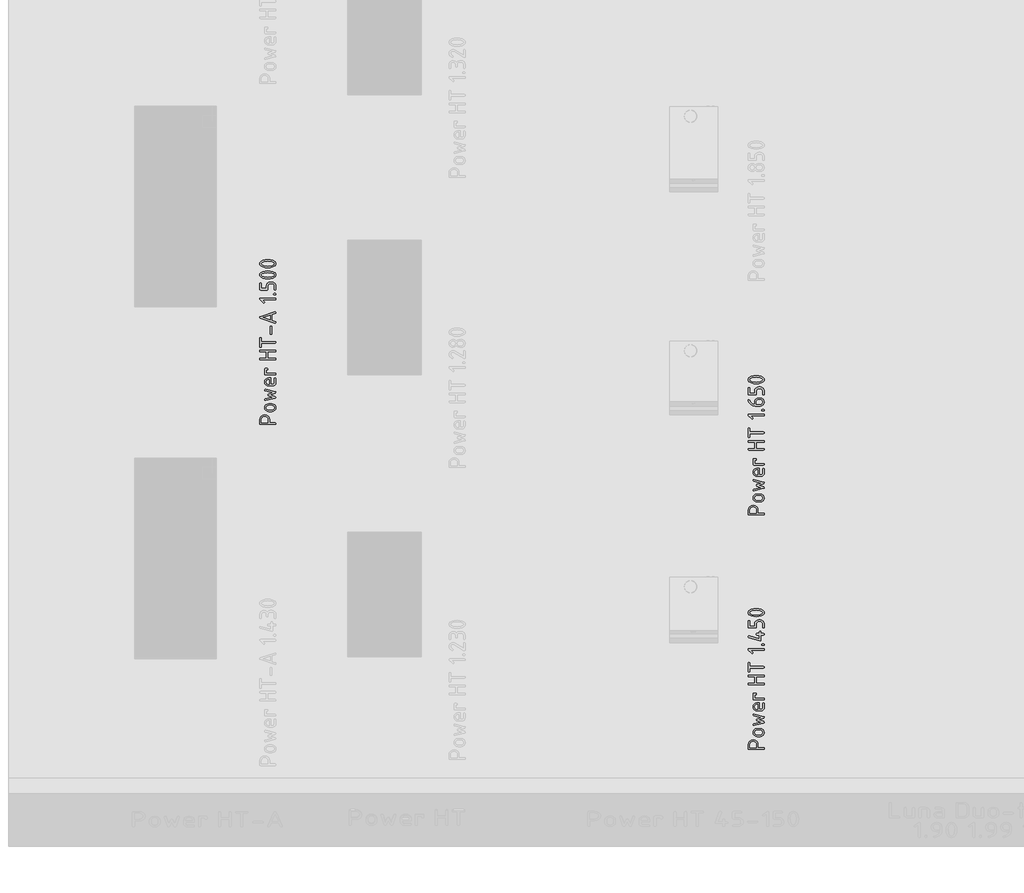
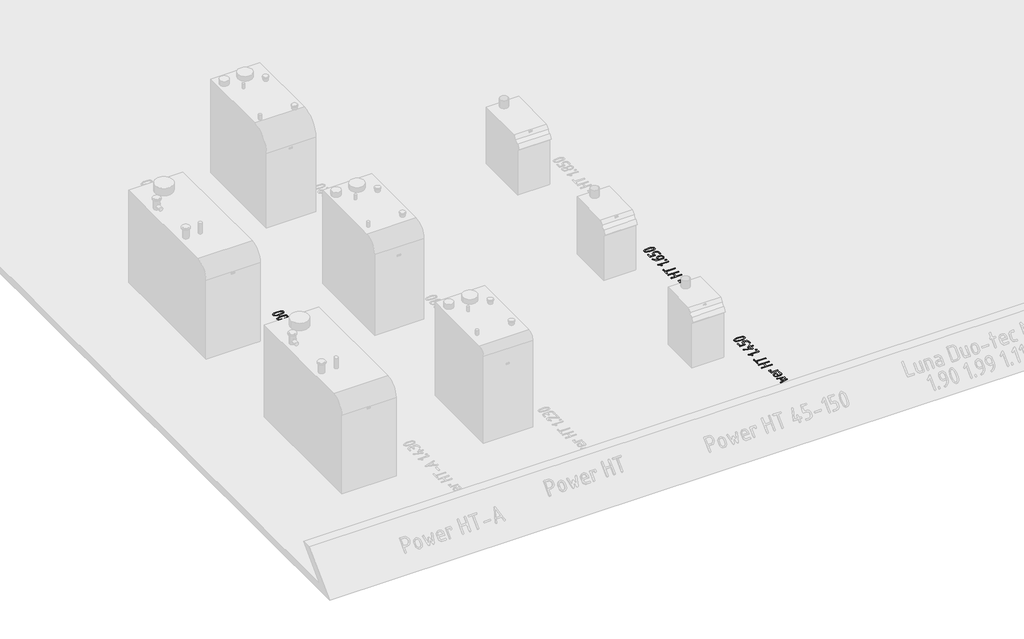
# One storey, part 15 of 37: 3 proxies.
"""IFC4 building model written with IfcOpenShell, lengths in millimetres."""

from ifc_helpers import new_model, si_unit, frame, origin, place, context, project, spatial, polyline, outline, extrude, element, save

model = new_model("IFC4")

# Units and contexts
model_context = context("Model", 3, world=origin())
ifc_project = project(units=[si_unit("LENGTHUNIT", "METRE", prefix="MILLI")], contexts=[model_context])

# Site, building, storey
site = spatial("IfcSite", under=ifc_project)
building = spatial("IfcBuilding", under=site)
storey = spatial("IfcBuildingStorey", under=building, Name="01_Стартовый вид_Площадка", Elevation=0.0)

# Proxies
placement = place(None, origin())
element("IfcBuildingElementProxy", 1, Name="150 мм", ObjectType="150 мм", at=placement, inside=storey, context=model_context, shape_type="SweptSolid", body=[
    extrude(outline(polyline([(4705.0274469, -4367.0979385), (4705.0274469, -4329.8230938), (4708.3833815, -4312.5689956), (4718.4511852, -4298.1214975), (4733.3131812, -4288.338349), (4751.0516925, -4285.0772995), (4769.5892359, -4288.1685547), (4784.2914255, -4297.4423203), (4793.87981, -4311.6600967), (4797.0759381, -4329.5833842), (4797.0759381, -4359.2274729), (4848.5336016, -4359.2274729), (4854.0469227, -4361.1451498), (4855.8846964, -4366.8981805), (4853.9969832, -4372.6512112), (4848.3338436, -4374.5688881), (4712.5782997, -4374.5688881), (4706.9151601, -4372.7011507), (4705.0274469, -4367.0979385)]), holes=[polyline([(4720.3688621, -4359.2274729), (4781.7345229, -4359.2274729), (4781.7345229, -4329.8230938), (4779.5122151, -4318.4318932), (4772.8452915, -4308.9483817), (4762.952276, -4302.5511314), (4751.0516925, -4300.4187147), (4739.1511091, -4302.5511314), (4729.2580936, -4308.9483817), (4722.59117, -4318.4318932), (4720.3688621, -4329.8230938), (4720.3688621, -4359.2274729)])]), frame((0.0, 0.0, -10.0), z_axis=(0.0, 0.0, 1.0), x_axis=(1.0, 0.0, 0.0)), (0.0, 0.0, 1.0), 10.0),
    extrude(outline(polyline([(4818.4500452, -4254.3944691), (4788.4863437, -4254.3944691), (4774.093779, -4251.6827541), (4761.9984315, -4243.5476091), (4753.7883773, -4231.5671224), (4751.0516925, -4217.3193823), (4753.7584136, -4202.9218237), (4761.8785767, -4190.9713008), (4773.9439605, -4182.9260469), (4788.4863437, -4180.2442956), (4818.4500452, -4180.2442956), (4832.8426099, -4182.9560106), (4844.9379574, -4191.0911556), (4853.1480116, -4203.0716423), (4855.8846964, -4217.3193823), (4853.1480116, -4231.5671224), (4844.9379574, -4243.5476091), (4832.8426099, -4251.6827541), (4818.4500452, -4254.3944691)]), holes=[polyline([(4818.0105776, -4195.5857108), (4788.0069245, -4195.5857108), (4779.3773784, -4197.1787809), (4772.1061868, -4201.9579913), (4767.1621761, -4208.9844794), (4765.5141725, -4217.3193823), (4767.1621761, -4225.6542853), (4772.1061868, -4232.6807733), (4779.3773784, -4237.4599837), (4788.0069245, -4239.0530539), (4818.0105776, -4239.0530539), (4826.7200269, -4237.4749656), (4833.9912184, -4232.7407007), (4838.9052655, -4225.7291946), (4840.5432812, -4217.3193823), (4838.8952776, -4208.9844794), (4833.9512668, -4201.9579913), (4826.6700874, -4197.1787809), (4818.0105776, -4195.5857108)])]), frame((0.0, 0.0, -10.0), z_axis=(0.0, 0.0, 1.0), x_axis=(1.0, 0.0, 0.0)), (0.0, 0.0, 1.0), 10.0),
    extrude(outline(polyline([(4855.8846964, -4074.8919209), (4850.4512785, -4082.1631125), (4809.7006444, -4097.3846729), (4850.2115689, -4112.6461849), (4855.8846964, -4119.9173765), (4854.1268259, -4124.7714961), (4848.8532144, -4127.5081809), (4760.3604158, -4149.68132), (4758.2030293, -4149.9210296), (4752.8395267, -4148.0433043), (4751.0516925, -4142.4101284), (4752.4699744, -4137.635912), (4756.72482, -4135.1389369), (4823.0844311, -4118.5190704), (4785.8095863, -4104.5759613), (4780.9354909, -4097.3846729), (4785.8095863, -4090.3531909), (4823.2042859, -4076.3701302), (4756.72482, -4059.6703605), (4752.4699744, -4057.113458), (4751.0516925, -4052.399169), (4753.1491516, -4047.1655091), (4758.2030293, -4044.8882678), (4760.3604158, -4045.1279774), (4849.292682, -4067.3810197), (4854.2366928, -4070.0577771), (4855.8846964, -4074.8919209)])), frame((0.0, 0.0, -10.0), z_axis=(0.0, 0.0, 1.0), x_axis=(1.0, 0.0, 0.0)), (0.0, 0.0, 1.0), 10.0),
    extrude(outline(polyline([(4809.8604508, -3998.7042158), (4825.201866, -3998.7042158), (4836.0087744, -3994.2695879), (4840.5432812, -3983.722365), (4840.5432812, -3946.2078106), (4842.4609581, -3940.5746348), (4848.2139888, -3938.6969095), (4853.9670195, -3940.5746348), (4855.8846964, -3946.2078106), (4855.8846964, -3983.722365), (4853.717322, -3995.3782449), (4847.2151987, -4005.1763753), (4837.5568989, -4011.8283171), (4825.9209948, -4014.045631), (4788.4863437, -4014.045631), (4774.093779, -4011.2640007), (4761.9984315, -4002.9191098), (4753.7883773, -3990.6789377), (4751.0516925, -3976.2114638), (4753.7084741, -3961.634123), (4761.6788187, -3949.5437694), (4773.5244687, -3941.4086244), (4787.8071664, -3938.6969095), (4809.8604508, -3938.6969095), (4809.8604508, -3998.7042158)]), holes=[polyline([(4764.5153824, -3976.2114638), (4766.163386, -3984.8410099), (4771.1073968, -3992.1122014), (4778.3785884, -3997.0562122), (4787.0081344, -3998.7042158), (4794.5190356, -3998.7042158), (4794.5190356, -3953.7187118), (4787.0081344, -3953.7187118), (4778.3785884, -3955.3667154), (4771.1073968, -3960.3107262), (4766.163386, -3967.5819178), (4764.5153824, -3976.2114638)])]), frame((0.0, 0.0, -10.0), z_axis=(0.0, 0.0, 1.0), x_axis=(1.0, 0.0, 0.0)), (0.0, 0.0, 1.0), 10.0),
    extrude(outline(polyline([(4758.5226421, -3909.2126271), (4752.9194299, -3907.2949502), (4751.0516925, -3901.5419195), (4751.0516925, -3856.3566576), (4752.9693694, -3850.7534454), (4758.7224001, -3848.885708), (4773.9040089, -3848.885708), (4779.5371848, -3850.7534454), (4781.4149101, -3856.3566576), (4779.5371848, -3861.9898335), (4773.9040089, -3863.8675588), (4766.3931077, -3863.8675588), (4766.3931077, -3893.8712119), (4848.4137468, -3893.8712119), (4854.016959, -3895.7888888), (4855.8846964, -3901.5419195), (4854.016959, -3907.2949502), (4848.4137468, -3909.2126271), (4758.5226421, -3909.2126271)])), frame((0.0, 0.0, -10.0), z_axis=(0.0, 0.0, 1.0), x_axis=(1.0, 0.0, 0.0)), (0.0, 0.0, 1.0), 10.0),
    extrude(outline(polyline([(4848.3338436, -3768.5829878), (4712.5782997, -3768.5829878), (4706.9151601, -3766.6653109), (4705.0274469, -3760.9122802), (4706.9451238, -3755.1592495), (4712.6981545, -3753.2415726), (4766.3931077, -3753.2415726), (4766.3931077, -3694.4328144), (4712.6981545, -3694.4328144), (4706.9451238, -3692.5151375), (4705.0274469, -3686.7621068), (4706.9151601, -3681.0090761), (4712.5782997, -3679.0913992), (4848.3338436, -3679.0913992), (4853.9969832, -3681.0090761), (4855.8846964, -3686.7621068), (4854.0269469, -3692.5151375), (4848.4536984, -3694.4328144), (4781.7345229, -3694.4328144), (4781.7345229, -3753.2415726), (4848.4536984, -3753.2415726), (4854.0269469, -3755.1592495), (4855.8846964, -3760.9122802), (4853.9969832, -3766.6653109), (4848.3338436, -3768.5829878)])), frame((0.0, 0.0, -10.0), z_axis=(0.0, 0.0, 1.0), x_axis=(1.0, 0.0, 0.0)), (0.0, 0.0, 1.0), 10.0),
    extrude(outline(polyline([(4712.6981545, -3650.1264877), (4706.9451238, -3648.2487624), (4705.0274469, -3642.6155865), (4705.0274469, -3567.2668649), (4706.9451238, -3561.6636528), (4712.6981545, -3559.7959154), (4718.4511852, -3561.6636528), (4720.3688621, -3567.2668649), (4720.3688621, -3597.2705181), (4848.3737952, -3597.2705181), (4854.0069711, -3599.188195), (4855.8846964, -3604.9412257), (4854.0069711, -3610.6942564), (4848.3737952, -3612.6119333), (4720.3688621, -3612.6119333), (4720.3688621, -3642.6155865), (4718.4511852, -3648.2487624), (4712.6981545, -3650.1264877)])), frame((0.0, 0.0, -10.0), z_axis=(0.0, 0.0, 1.0), x_axis=(1.0, 0.0, 0.0)), (0.0, 0.0, 1.0), 10.0),
    extrude(outline(polyline([(4730.7562787, -3446.4132687), (4748.0553224, -3463.6723608), (4750.2127089, -3468.9060206), (4748.3349836, -3474.5391965), (4742.7018077, -3476.4169218), (4737.4681478, -3474.2195837), (4707.9838655, -3444.8951078), (4705.0274469, -3438.7425611), (4706.9151601, -3432.9895304), (4712.5782997, -3431.0718535), (4848.3338436, -3431.0718535), (4853.9969832, -3432.9895304), (4855.8846964, -3438.7425611), (4853.9969832, -3444.4955918), (4848.3338436, -3446.4132687), (4730.7562787, -3446.4132687)])), frame((0.0, 0.0, -10.0), z_axis=(0.0, 0.0, 1.0), x_axis=(1.0, 0.0, 0.0)), (0.0, 0.0, 1.0), 10.0),
    extrude(outline(polyline([(4840.5432812, -3400.3890231), (4834.7902505, -3398.4713462), (4832.8725736, -3392.7183155), (4834.7902505, -3386.9652848), (4840.5432812, -3385.0476079), (4848.2139888, -3385.0476079), (4853.9670195, -3386.9652848), (4855.8846964, -3392.7183155), (4853.9670195, -3398.4713462), (4848.2139888, -3400.3890231), (4840.5432812, -3400.3890231)])), frame((0.0, 0.0, -10.0), z_axis=(0.0, 0.0, 1.0), x_axis=(1.0, 0.0, 0.0)), (0.0, 0.0, 1.0), 10.0),
    extrude(outline(polyline([(4817.6909648, -3355.7630836), (4815.6534331, -3355.5233739), (4710.5008164, -3325.5197208), (4706.3957893, -3322.9028908), (4705.0274469, -3318.2485292), (4706.8951843, -3312.6153533), (4712.4983965, -3310.737628), (4714.655783, -3311.0971924), (4809.8604508, -3338.344185), (4809.8604508, -3303.2267268), (4787.3277472, -3303.2267268), (4781.724535, -3301.3090499), (4779.8567976, -3295.5560192), (4781.724535, -3289.8029885), (4787.3277472, -3287.8853116), (4809.8604508, -3287.8853116), (4809.8604508, -3272.8635092), (4811.7781277, -3267.2602971), (4817.5311584, -3265.3925597), (4823.2841891, -3267.2602971), (4825.201866, -3272.8635092), (4825.201866, -3287.8853116), (4848.2139888, -3287.8853116), (4853.9670195, -3289.8029885), (4855.8846964, -3295.5560192), (4853.9670195, -3301.3090499), (4848.2139888, -3303.2267268), (4825.201866, -3303.2267268), (4825.201866, -3348.2521824), (4823.3241407, -3353.8853583), (4817.6909648, -3355.7630836)])), frame((0.0, 0.0, -10.0), z_axis=(0.0, 0.0, 1.0), x_axis=(1.0, 0.0, 0.0)), (0.0, 0.0, 1.0), 10.0),
    extrude(outline(polyline([(4774.0638153, -3234.1903584), (4712.6981545, -3234.1903584), (4706.9451238, -3232.3525847), (4705.0274469, -3226.8392637), (4705.0274469, -3175.3816002), (4706.9451238, -3169.7484243), (4712.6981545, -3167.870699), (4718.4511852, -3169.7484243), (4720.3688621, -3175.3816002), (4720.3688621, -3218.8489432), (4766.3931077, -3218.8489432), (4766.3931077, -3196.7956589), (4769.1347864, -3182.6627797), (4777.3598225, -3170.7871659), (4789.4202124, -3162.7269302), (4803.6679525, -3160.040185), (4818.6098516, -3160.040185), (4832.932501, -3162.7668818), (4844.977909, -3170.9469723), (4853.1579995, -3182.9424409), (4855.8846964, -3197.1152717), (4855.8846964, -3226.7593604), (4853.9670195, -3232.3326089), (4848.2139888, -3234.1903584), (4842.4609581, -3232.3525847), (4840.5432812, -3226.8392637), (4840.5432812, -3197.4348845), (4838.9402232, -3188.9102114), (4834.1310491, -3181.7938323), (4827.0146699, -3176.9846582), (4818.4899968, -3175.3816002), (4803.7878073, -3175.3816002), (4795.3130737, -3176.9946461), (4788.1867067, -3181.8337839), (4783.3475689, -3188.9601509), (4781.7345229, -3197.4348845), (4781.7345229, -3226.8392637), (4779.816846, -3232.3525847), (4774.0638153, -3234.1903584)])), frame((0.0, 0.0, -10.0), z_axis=(0.0, 0.0, 1.0), x_axis=(1.0, 0.0, 0.0)), (0.0, 0.0, 1.0), 10.0),
    extrude(outline(polyline([(4780.4560717, -3055.2071811), (4805.5956173, -3056.8352089), (4827.0795913, -3061.7192923), (4848.6834201, -3074.1342526), (4854.0843773, -3082.4916284), (4855.8846964, -3092.2822679), (4854.0918682, -3102.0729073), (4848.7133838, -3110.4302831), (4827.1994461, -3122.8452434), (4805.6855084, -3127.7293268), (4780.4560717, -3129.3573546), (4755.226635, -3127.7293268), (4733.7126972, -3122.8452434), (4712.1987595, -3110.4302831), (4706.8202751, -3102.0729073), (4705.0274469, -3092.2822679), (4706.827766, -3082.4916284), (4712.2287232, -3074.1342526), (4733.832552, -3061.7192923), (4755.3165261, -3056.8352089), (4780.4560717, -3055.2071811)]), holes=[polyline([(4780.4560717, -3070.5485963), (4745.2986618, -3074.3839501), (4726.6013121, -3081.7749965), (4720.3688621, -3092.2822679), (4726.6312758, -3102.6996481), (4745.4185166, -3110.0607308), (4780.4560717, -3114.0159394), (4815.6134815, -3110.1805856), (4834.3108313, -3102.7895392), (4840.5432812, -3092.2822679), (4834.3108313, -3081.7749965), (4815.6134815, -3074.3839501), (4780.4560717, -3070.5485963)])]), frame((0.0, 0.0, -10.0), z_axis=(0.0, 0.0, 1.0), x_axis=(1.0, 0.0, 0.0)), (0.0, 0.0, 1.0), 10.0),
])
element("IfcBuildingElementProxy", 2, Name="150 мм", ObjectType="150 мм", at=placement, inside=storey, context=model_context, shape_type="SweptSolid", body=[
    extrude(outline(polyline([(4705.0274469, -2167.0979385), (4705.0274469, -2129.8230938), (4708.3833815, -2112.5689956), (4718.4511852, -2098.1214975), (4733.3131812, -2088.338349), (4751.0516925, -2085.0772995), (4769.5892359, -2088.1685547), (4784.2914255, -2097.4423203), (4793.87981, -2111.6600967), (4797.0759381, -2129.5833842), (4797.0759381, -2159.2274729), (4848.5336016, -2159.2274729), (4854.0469227, -2161.1451498), (4855.8846964, -2166.8981805), (4853.9969832, -2172.6512112), (4848.3338436, -2174.5688881), (4712.5782997, -2174.5688881), (4706.9151601, -2172.7011507), (4705.0274469, -2167.0979385)]), holes=[polyline([(4720.3688621, -2159.2274729), (4781.7345229, -2159.2274729), (4781.7345229, -2129.8230938), (4779.5122151, -2118.4318932), (4772.8452915, -2108.9483817), (4762.952276, -2102.5511314), (4751.0516925, -2100.4187147), (4739.1511091, -2102.5511314), (4729.2580936, -2108.9483817), (4722.59117, -2118.4318932), (4720.3688621, -2129.8230938), (4720.3688621, -2159.2274729)])]), frame((0.0, 0.0, -10.0), z_axis=(0.0, 0.0, 1.0), x_axis=(1.0, 0.0, 0.0)), (0.0, 0.0, 1.0), 10.0),
    extrude(outline(polyline([(4818.4500452, -2054.3944691), (4788.4863437, -2054.3944691), (4774.093779, -2051.6827541), (4761.9984315, -2043.5476091), (4753.7883773, -2031.5671224), (4751.0516925, -2017.3193823), (4753.7584136, -2002.9218237), (4761.8785767, -1990.9713008), (4773.9439605, -1982.9260469), (4788.4863437, -1980.2442956), (4818.4500452, -1980.2442956), (4832.8426099, -1982.9560106), (4844.9379574, -1991.0911556), (4853.1480116, -2003.0716423), (4855.8846964, -2017.3193823), (4853.1480116, -2031.5671224), (4844.9379574, -2043.5476091), (4832.8426099, -2051.6827541), (4818.4500452, -2054.3944691)]), holes=[polyline([(4818.0105776, -1995.5857108), (4788.0069245, -1995.5857108), (4779.3773784, -1997.1787809), (4772.1061868, -2001.9579913), (4767.1621761, -2008.9844794), (4765.5141725, -2017.3193823), (4767.1621761, -2025.6542853), (4772.1061868, -2032.6807733), (4779.3773784, -2037.4599837), (4788.0069245, -2039.0530539), (4818.0105776, -2039.0530539), (4826.7200269, -2037.4749656), (4833.9912184, -2032.7407007), (4838.9052655, -2025.7291946), (4840.5432812, -2017.3193823), (4838.8952776, -2008.9844794), (4833.9512668, -2001.9579913), (4826.6700874, -1997.1787809), (4818.0105776, -1995.5857108)])]), frame((0.0, 0.0, -10.0), z_axis=(0.0, 0.0, 1.0), x_axis=(1.0, 0.0, 0.0)), (0.0, 0.0, 1.0), 10.0),
    extrude(outline(polyline([(4855.8846964, -1874.8919209), (4850.4512785, -1882.1631125), (4809.7006444, -1897.3846729), (4850.2115689, -1912.6461849), (4855.8846964, -1919.9173765), (4854.1268259, -1924.7714961), (4848.8532144, -1927.5081809), (4760.3604158, -1949.68132), (4758.2030293, -1949.9210296), (4752.8395267, -1948.0433043), (4751.0516925, -1942.4101284), (4752.4699744, -1937.635912), (4756.72482, -1935.1389369), (4823.0844311, -1918.5190704), (4785.8095863, -1904.5759613), (4780.9354909, -1897.3846729), (4785.8095863, -1890.3531909), (4823.2042859, -1876.3701302), (4756.72482, -1859.6703605), (4752.4699744, -1857.113458), (4751.0516925, -1852.399169), (4753.1491516, -1847.1655091), (4758.2030293, -1844.8882678), (4760.3604158, -1845.1279774), (4849.292682, -1867.3810197), (4854.2366928, -1870.0577771), (4855.8846964, -1874.8919209)])), frame((0.0, 0.0, -10.0), z_axis=(0.0, 0.0, 1.0), x_axis=(1.0, 0.0, 0.0)), (0.0, 0.0, 1.0), 10.0),
    extrude(outline(polyline([(4809.8604508, -1798.7042158), (4825.201866, -1798.7042158), (4836.0087744, -1794.2695879), (4840.5432812, -1783.722365), (4840.5432812, -1746.2078106), (4842.4609581, -1740.5746348), (4848.2139888, -1738.6969095), (4853.9670195, -1740.5746348), (4855.8846964, -1746.2078106), (4855.8846964, -1783.722365), (4853.717322, -1795.3782449), (4847.2151987, -1805.1763753), (4837.5568989, -1811.8283171), (4825.9209948, -1814.045631), (4788.4863437, -1814.045631), (4774.093779, -1811.2640007), (4761.9984315, -1802.9191098), (4753.7883773, -1790.6789377), (4751.0516925, -1776.2114638), (4753.7084741, -1761.634123), (4761.6788187, -1749.5437694), (4773.5244687, -1741.4086244), (4787.8071664, -1738.6969095), (4809.8604508, -1738.6969095), (4809.8604508, -1798.7042158)]), holes=[polyline([(4764.5153824, -1776.2114638), (4766.163386, -1784.8410099), (4771.1073968, -1792.1122014), (4778.3785884, -1797.0562122), (4787.0081344, -1798.7042158), (4794.5190356, -1798.7042158), (4794.5190356, -1753.7187118), (4787.0081344, -1753.7187118), (4778.3785884, -1755.3667154), (4771.1073968, -1760.3107262), (4766.163386, -1767.5819178), (4764.5153824, -1776.2114638)])]), frame((0.0, 0.0, -10.0), z_axis=(0.0, 0.0, 1.0), x_axis=(1.0, 0.0, 0.0)), (0.0, 0.0, 1.0), 10.0),
    extrude(outline(polyline([(4758.5226421, -1709.2126271), (4752.9194299, -1707.2949502), (4751.0516925, -1701.5419195), (4751.0516925, -1656.3566576), (4752.9693694, -1650.7534454), (4758.7224001, -1648.885708), (4773.9040089, -1648.885708), (4779.5371848, -1650.7534454), (4781.4149101, -1656.3566576), (4779.5371848, -1661.9898335), (4773.9040089, -1663.8675588), (4766.3931077, -1663.8675588), (4766.3931077, -1693.8712119), (4848.4137468, -1693.8712119), (4854.016959, -1695.7888888), (4855.8846964, -1701.5419195), (4854.016959, -1707.2949502), (4848.4137468, -1709.2126271), (4758.5226421, -1709.2126271)])), frame((0.0, 0.0, -10.0), z_axis=(0.0, 0.0, 1.0), x_axis=(1.0, 0.0, 0.0)), (0.0, 0.0, 1.0), 10.0),
    extrude(outline(polyline([(4848.3338436, -1568.5829878), (4712.5782997, -1568.5829878), (4706.9151601, -1566.6653109), (4705.0274469, -1560.9122802), (4706.9451238, -1555.1592495), (4712.6981545, -1553.2415726), (4766.3931077, -1553.2415726), (4766.3931077, -1494.4328144), (4712.6981545, -1494.4328144), (4706.9451238, -1492.5151375), (4705.0274469, -1486.7621068), (4706.9151601, -1481.0090761), (4712.5782997, -1479.0913992), (4848.3338436, -1479.0913992), (4853.9969832, -1481.0090761), (4855.8846964, -1486.7621068), (4854.0269469, -1492.5151375), (4848.4536984, -1494.4328144), (4781.7345229, -1494.4328144), (4781.7345229, -1553.2415726), (4848.4536984, -1553.2415726), (4854.0269469, -1555.1592495), (4855.8846964, -1560.9122802), (4853.9969832, -1566.6653109), (4848.3338436, -1568.5829878)])), frame((0.0, 0.0, -10.0), z_axis=(0.0, 0.0, 1.0), x_axis=(1.0, 0.0, 0.0)), (0.0, 0.0, 1.0), 10.0),
    extrude(outline(polyline([(4712.6981545, -1450.1264877), (4706.9451238, -1448.2487624), (4705.0274469, -1442.6155865), (4705.0274469, -1367.2668649), (4706.9451238, -1361.6636528), (4712.6981545, -1359.7959154), (4718.4511852, -1361.6636528), (4720.3688621, -1367.2668649), (4720.3688621, -1397.2705181), (4848.3737952, -1397.2705181), (4854.0069711, -1399.188195), (4855.8846964, -1404.9412257), (4854.0069711, -1410.6942564), (4848.3737952, -1412.6119333), (4720.3688621, -1412.6119333), (4720.3688621, -1442.6155865), (4718.4511852, -1448.2487624), (4712.6981545, -1450.1264877)])), frame((0.0, 0.0, -10.0), z_axis=(0.0, 0.0, 1.0), x_axis=(1.0, 0.0, 0.0)), (0.0, 0.0, 1.0), 10.0),
    extrude(outline(polyline([(4730.7562787, -1246.4132687), (4748.0553224, -1263.6723608), (4750.2127089, -1268.9060206), (4748.3349836, -1274.5391965), (4742.7018077, -1276.4169218), (4737.4681478, -1274.2195837), (4707.9838655, -1244.8951078), (4705.0274469, -1238.7425611), (4706.9151601, -1232.9895304), (4712.5782997, -1231.0718535), (4848.3338436, -1231.0718535), (4853.9969832, -1232.9895304), (4855.8846964, -1238.7425611), (4853.9969832, -1244.4955918), (4848.3338436, -1246.4132687), (4730.7562787, -1246.4132687)])), frame((0.0, 0.0, -10.0), z_axis=(0.0, 0.0, 1.0), x_axis=(1.0, 0.0, 0.0)), (0.0, 0.0, 1.0), 10.0),
    extrude(outline(polyline([(4840.5432812, -1200.3890231), (4834.7902505, -1198.4713462), (4832.8725736, -1192.7183155), (4834.7902505, -1186.9652848), (4840.5432812, -1185.0476079), (4848.2139888, -1185.0476079), (4853.9670195, -1186.9652848), (4855.8846964, -1192.7183155), (4853.9670195, -1198.4713462), (4848.2139888, -1200.3890231), (4840.5432812, -1200.3890231)])), frame((0.0, 0.0, -10.0), z_axis=(0.0, 0.0, 1.0), x_axis=(1.0, 0.0, 0.0)), (0.0, 0.0, 1.0), 10.0),
    extrude(outline(polyline([(4705.0274469, -1102.907114), (4706.9451238, -1097.3937929), (4712.6981545, -1095.5560192), (4719.3301205, -1099.2315666), (4726.5813363, -1114.5430181), (4739.7853408, -1127.7969621), (4752.8295388, -1135.437706), (4766.3931077, -1139.0233623), (4766.3931077, -1117.3296424), (4769.1048227, -1102.8521806), (4777.2399677, -1090.9016576), (4789.2703939, -1082.8863674), (4803.6679525, -1080.214604), (4818.6098516, -1080.214604), (4833.0074102, -1082.926319), (4845.0378364, -1091.061464), (4853.1729814, -1103.0419507), (4855.8846964, -1117.2896908), (4853.1579995, -1131.6123401), (4844.977909, -1143.5778449), (4832.8825615, -1151.6680443), (4818.4100936, -1154.3647775), (4772.9052189, -1154.3647775), (4748.8743302, -1150.2197988), (4727.9996181, -1137.7848626), (4715.1951297, -1124.2612453), (4706.7453658, -1109.5790316), (4705.0274469, -1102.907114)]), holes=[polyline([(4781.7345229, -1139.0233623), (4818.4899968, -1139.0233623), (4827.0146699, -1137.445274), (4834.1310491, -1132.7110092), (4838.9402232, -1125.699503), (4840.5432812, -1117.2896908), (4838.9302353, -1108.8798785), (4834.0910975, -1101.8683724), (4826.9647304, -1097.1341075), (4818.4899968, -1095.5560192), (4803.7878073, -1095.5560192), (4795.2631342, -1097.1490894), (4788.1467551, -1101.9282998), (4783.337581, -1108.9547878), (4781.7345229, -1117.2896908), (4781.7345229, -1139.0233623)])]), frame((0.0, 0.0, -10.0), z_axis=(0.0, 0.0, 1.0), x_axis=(1.0, 0.0, 0.0)), (0.0, 0.0, 1.0), 10.0),
    extrude(outline(polyline([(4774.0638153, -1049.5317736), (4712.6981545, -1049.5317736), (4706.9451238, -1047.6939999), (4705.0274469, -1042.1806789), (4705.0274469, -990.7230154), (4706.9451238, -985.0898395), (4712.6981545, -983.2121142), (4718.4511852, -985.0898395), (4720.3688621, -990.7230154), (4720.3688621, -1034.1903584), (4766.3931077, -1034.1903584), (4766.3931077, -1012.1370741), (4769.1347864, -998.0041949), (4777.3598225, -986.1285811), (4789.4202124, -978.0683454), (4803.6679525, -975.3816002), (4818.6098516, -975.3816002), (4832.932501, -978.108297), (4844.977909, -986.2883875), (4853.1579995, -998.2838561), (4855.8846964, -1012.4566869), (4855.8846964, -1042.1007756), (4853.9670195, -1047.6740241), (4848.2139888, -1049.5317736), (4842.4609581, -1047.6939999), (4840.5432812, -1042.1806789), (4840.5432812, -1012.7762997), (4838.9402232, -1004.2516266), (4834.1310491, -997.1352475), (4827.0146699, -992.3260734), (4818.4899968, -990.7230154), (4803.7878073, -990.7230154), (4795.3130737, -992.3360613), (4788.1867067, -997.1751991), (4783.3475689, -1004.3015661), (4781.7345229, -1012.7762997), (4781.7345229, -1042.1806789), (4779.816846, -1047.6939999), (4774.0638153, -1049.5317736)])), frame((0.0, 0.0, -10.0), z_axis=(0.0, 0.0, 1.0), x_axis=(1.0, 0.0, 0.0)), (0.0, 0.0, 1.0), 10.0),
    extrude(outline(polyline([(4780.4560717, -870.5485963), (4805.5956173, -872.1766241), (4827.0795913, -877.0607075), (4848.6834201, -889.4756678), (4854.0843773, -897.8330436), (4855.8846964, -907.6236831), (4854.0918682, -917.4143225), (4848.7133838, -925.7716983), (4827.1994461, -938.1866586), (4805.6855084, -943.070742), (4780.4560717, -944.6987698), (4755.226635, -943.070742), (4733.7126972, -938.1866586), (4712.1987595, -925.7716983), (4706.8202751, -917.4143225), (4705.0274469, -907.6236831), (4706.827766, -897.8330436), (4712.2287232, -889.4756678), (4733.832552, -877.0607075), (4755.3165261, -872.1766241), (4780.4560717, -870.5485963)]), holes=[polyline([(4780.4560717, -885.8900115), (4745.2986618, -889.7253653), (4726.6013121, -897.1164117), (4720.3688621, -907.6236831), (4726.6312758, -918.0410633), (4745.4185166, -925.402146), (4780.4560717, -929.3573546), (4815.6134815, -925.5220008), (4834.3108313, -918.1309544), (4840.5432812, -907.6236831), (4834.3108313, -897.1164117), (4815.6134815, -889.7253653), (4780.4560717, -885.8900115)])]), frame((0.0, 0.0, -10.0), z_axis=(0.0, 0.0, 1.0), x_axis=(1.0, 0.0, 0.0)), (0.0, 0.0, 1.0), 10.0),
])
element("IfcBuildingElementProxy", 3, Name="150 мм", ObjectType="150 мм", at=placement, inside=storey, context=model_context, shape_type="SweptSolid", body=[
    extrude(outline(polyline([(124.0044159, -1319.4896419), (124.0044159, -1282.2147972), (127.3603504, -1264.960699), (137.4281542, -1250.5132009), (152.2901501, -1240.7300524), (170.0286615, -1237.4690028), (188.5662048, -1240.5602581), (203.2683944, -1249.8340237), (212.8567789, -1264.0518001), (216.052907, -1281.9750876), (216.052907, -1311.6191763), (267.5105705, -1311.6191763), (273.0238916, -1313.5368532), (274.8616653, -1319.2898839), (272.9739521, -1325.0429146), (267.3108125, -1326.9605915), (131.5552687, -1326.9605915), (125.8921291, -1325.0928541), (124.0044159, -1319.4896419)]), holes=[polyline([(139.3458311, -1311.6191763), (200.7114919, -1311.6191763), (200.7114919, -1282.2147972), (198.489184, -1270.8235966), (191.8222604, -1261.3400851), (181.9292449, -1254.9428348), (170.0286615, -1252.810418), (158.128078, -1254.9428348), (148.2350625, -1261.3400851), (141.5681389, -1270.8235966), (139.3458311, -1282.2147972), (139.3458311, -1311.6191763)])]), frame((0.0, 0.0, -10.0), z_axis=(0.0, 0.0, 1.0), x_axis=(1.0, 0.0, 0.0)), (0.0, 0.0, 1.0), 10.0),
    extrude(outline(polyline([(237.4270142, -1206.7861724), (207.4633126, -1206.7861724), (193.070748, -1204.0744575), (180.9754004, -1195.9393125), (172.7653462, -1183.9588258), (170.0286615, -1169.7110857), (172.7353825, -1155.3135271), (180.8555456, -1143.3630042), (192.9209294, -1135.3177503), (207.4633126, -1132.635999), (237.4270142, -1132.635999), (251.8195788, -1135.347714), (263.9149263, -1143.482859), (272.1249806, -1155.4633456), (274.8616653, -1169.7110857), (272.1249806, -1183.9588258), (263.9149263, -1195.9393125), (251.8195788, -1204.0744575), (237.4270142, -1206.7861724)]), holes=[polyline([(236.9875465, -1147.9774142), (206.9838934, -1147.9774142), (198.3543473, -1149.5704843), (191.0831558, -1154.3496947), (186.139145, -1161.3761827), (184.4911414, -1169.7110857), (186.139145, -1178.0459887), (191.0831558, -1185.0724767), (198.3543473, -1189.8516871), (206.9838934, -1191.4447573), (236.9875465, -1191.4447573), (245.6969958, -1189.866669), (252.9681874, -1185.1324041), (257.8822344, -1178.120898), (259.5202501, -1169.7110857), (257.8722465, -1161.3761827), (252.9282358, -1154.3496947), (245.6470563, -1149.5704843), (236.9875465, -1147.9774142)])]), frame((0.0, 0.0, -10.0), z_axis=(0.0, 0.0, 1.0), x_axis=(1.0, 0.0, 0.0)), (0.0, 0.0, 1.0), 10.0),
    extrude(outline(polyline([(274.8616653, -1027.2836243), (269.4282474, -1034.5548159), (228.6776133, -1049.7763763), (269.1885378, -1065.0378883), (274.8616653, -1072.3090799), (273.1037948, -1077.1631995), (267.8301833, -1079.8998843), (179.3373847, -1102.0730234), (177.1799982, -1102.312733), (171.8164956, -1100.4350077), (170.0286615, -1094.8018318), (171.4469433, -1090.0276154), (175.701789, -1087.5306402), (242.0614, -1070.9107738), (204.7865553, -1056.9676647), (199.9124598, -1049.7763763), (204.7865553, -1042.7448943), (242.1812548, -1028.7618336), (175.701789, -1012.0620639), (171.4469433, -1009.5051614), (170.0286615, -1004.7908723), (172.1261206, -999.5572125), (177.1799982, -997.2799712), (179.3373847, -997.5196808), (268.269651, -1019.7727231), (273.2136617, -1022.4494805), (274.8616653, -1027.2836243)])), frame((0.0, 0.0, -10.0), z_axis=(0.0, 0.0, 1.0), x_axis=(1.0, 0.0, 0.0)), (0.0, 0.0, 1.0), 10.0),
    extrude(outline(polyline([(228.8374197, -951.0959192), (244.1788349, -951.0959192), (254.9857433, -946.6612913), (259.5202501, -936.1140684), (259.5202501, -898.599514), (261.437927, -892.9663381), (267.1909577, -891.0886128), (272.9439884, -892.9663381), (274.8616653, -898.599514), (274.8616653, -936.1140684), (272.6942909, -947.7699483), (266.1921677, -957.5680787), (256.5338679, -964.2200204), (244.8979637, -966.4373344), (207.4633126, -966.4373344), (193.070748, -963.6557041), (180.9754004, -955.3108132), (172.7653462, -943.0706411), (170.0286615, -928.6031672), (172.685443, -914.0258264), (180.6557876, -901.9354728), (192.5014376, -893.8003278), (206.7841354, -891.0886128), (228.8374197, -891.0886128), (228.8374197, -951.0959192)]), holes=[polyline([(183.4923514, -928.6031672), (185.1403549, -937.2327132), (190.0843657, -944.5039048), (197.3555573, -949.4479156), (205.9851033, -951.0959192), (213.4960045, -951.0959192), (213.4960045, -906.1104152), (205.9851033, -906.1104152), (197.3555573, -907.7584188), (190.0843657, -912.7024296), (185.1403549, -919.9736211), (183.4923514, -928.6031672)])]), frame((0.0, 0.0, -10.0), z_axis=(0.0, 0.0, 1.0), x_axis=(1.0, 0.0, 0.0)), (0.0, 0.0, 1.0), 10.0),
    extrude(outline(polyline([(177.499611, -861.6043305), (171.8963989, -859.6866536), (170.0286615, -853.9336229), (170.0286615, -808.748361), (171.9463384, -803.1451488), (177.6993691, -801.2774114), (192.8809778, -801.2774114), (198.5141537, -803.1451488), (200.391879, -808.748361), (198.5141537, -814.3815368), (192.8809778, -816.2592621), (185.3700767, -816.2592621), (185.3700767, -846.2629153), (267.3907157, -846.2629153), (272.9939279, -848.1805922), (274.8616653, -853.9336229), (272.9939279, -859.6866536), (267.3907157, -861.6043305), (177.499611, -861.6043305)])), frame((0.0, 0.0, -10.0), z_axis=(0.0, 0.0, 1.0), x_axis=(1.0, 0.0, 0.0)), (0.0, 0.0, 1.0), 10.0),
    extrude(outline(polyline([(267.3108125, -720.9746912), (131.5552687, -720.9746912), (125.8921291, -719.0570143), (124.0044159, -713.3039836), (125.9220928, -707.5509529), (131.6751235, -705.633276), (185.3700767, -705.633276), (185.3700767, -646.8245177), (131.6751235, -646.8245177), (125.9220928, -644.9068408), (124.0044159, -639.1538101), (125.8921291, -633.4007794), (131.5552687, -631.4831025), (267.3108125, -631.4831025), (272.9739521, -633.4007794), (274.8616653, -639.1538101), (273.0039158, -644.9068408), (267.4306673, -646.8245177), (200.7114919, -646.8245177), (200.7114919, -705.633276), (267.4306673, -705.633276), (273.0039158, -707.5509529), (274.8616653, -713.3039836), (272.9739521, -719.0570143), (267.3108125, -720.9746912)])), frame((0.0, 0.0, -10.0), z_axis=(0.0, 0.0, 1.0), x_axis=(1.0, 0.0, 0.0)), (0.0, 0.0, 1.0), 10.0),
    extrude(outline(polyline([(131.6751235, -602.518191), (125.9220928, -600.6404657), (124.0044159, -595.0072898), (124.0044159, -519.6585683), (125.9220928, -514.0553561), (131.6751235, -512.1876187), (137.4281542, -514.0553561), (139.3458311, -519.6585683), (139.3458311, -549.6622215), (267.3507641, -549.6622215), (272.98394, -551.5798984), (274.8616653, -557.3329291), (272.98394, -563.0859598), (267.3507641, -565.0036367), (139.3458311, -565.0036367), (139.3458311, -595.0072898), (137.4281542, -600.6404657), (131.6751235, -602.518191)])), frame((0.0, 0.0, -10.0), z_axis=(0.0, 0.0, 1.0), x_axis=(1.0, 0.0, 0.0)), (0.0, 0.0, 1.0), 10.0),
    extrude(outline(polyline([(236.5081273, -413.46721), (236.5081273, -473.4745163), (234.5904504, -479.1076922), (228.8374197, -480.9854175), (223.084389, -479.1076922), (221.1667121, -473.4745163), (221.1667121, -413.46721), (223.084389, -407.8340341), (228.8374197, -405.9563088), (234.5904504, -407.8340341), (236.5081273, -413.46721)])), frame((0.0, 0.0, -10.0), z_axis=(0.0, 0.0, 1.0), x_axis=(1.0, 0.0, 0.0)), (0.0, 0.0, 1.0), 10.0),
    extrude(outline(polyline([(267.3108125, -271.1196518), (272.9739521, -272.9973771), (274.8616653, -278.630553), (273.5532503, -283.1550719), (269.6280054, -285.7818898), (236.5081273, -296.5688223), (236.5081273, -350.6632915), (269.6280054, -361.4901757), (273.5532503, -364.1169935), (274.8616653, -368.6415125), (272.9739521, -374.2746884), (267.3108125, -376.1524137), (264.9137164, -375.7928492), (130.0770594, -331.1269581), (125.5225767, -328.230467), (124.0044159, -323.6160569), (125.4626493, -319.0615743), (129.8373498, -316.2649622), (264.9137164, -271.4792162), (267.3108125, -271.1196518)]), holes=[polyline([(155.0068591, -323.6160569), (221.1667121, -345.6693413), (221.1667121, -301.6027242), (155.0068591, -323.6160569)])]), frame((0.0, 0.0, -10.0), z_axis=(0.0, 0.0, 1.0), x_axis=(1.0, 0.0, 0.0)), (0.0, 0.0, 1.0), 10.0),
    extrude(outline(polyline([(149.7332476, -158.456134), (167.0322913, -175.715226), (169.1896778, -180.9488859), (167.3119525, -186.5820618), (161.6787766, -188.4597871), (156.4451167, -186.262449), (126.9608344, -156.9379731), (124.0044159, -150.7854264), (125.8921291, -145.0323957), (131.5552687, -143.1147188), (267.3108125, -143.1147188), (272.9739521, -145.0323957), (274.8616653, -150.7854264), (272.9739521, -156.5384571), (267.3108125, -158.456134), (149.7332476, -158.456134)])), frame((0.0, 0.0, -10.0), z_axis=(0.0, 0.0, 1.0), x_axis=(1.0, 0.0, 0.0)), (0.0, 0.0, 1.0), 10.0),
    extrude(outline(polyline([(259.5202501, -112.4318884), (253.7672194, -110.5142115), (251.8495425, -104.7611808), (253.7672194, -99.0081501), (259.5202501, -97.0904732), (267.1909577, -97.0904732), (272.9439884, -99.0081501), (274.8616653, -104.7611808), (272.9439884, -110.5142115), (267.1909577, -112.4318884), (259.5202501, -112.4318884)])), frame((0.0, 0.0, -10.0), z_axis=(0.0, 0.0, 1.0), x_axis=(1.0, 0.0, 0.0)), (0.0, 0.0, 1.0), 10.0),
    extrude(outline(polyline([(193.0407843, -66.4076428), (131.6751235, -66.4076428), (125.9220928, -64.5698691), (124.0044159, -59.056548), (124.0044159, -7.5988845), (125.9220928, -1.9657086), (131.6751235, -0.0879833), (137.4281542, -1.9657086), (139.3458311, -7.5988845), (139.3458311, -51.0662276), (185.3700767, -51.0662276), (185.3700767, -29.0129432), (188.1117553, -14.880064), (196.3367914, -3.0044503), (208.3971813, 5.0557854), (222.6449214, 7.7425307), (237.5868206, 7.7425307), (251.9094699, 5.0158338), (263.9548779, -3.1642567), (272.1349685, -15.1597252), (274.8616653, -29.332556), (274.8616653, -58.9766448), (272.9439884, -64.5498933), (267.1909577, -66.4076428), (261.437927, -64.5698691), (259.5202501, -59.056548), (259.5202501, -29.6521689), (257.9171921, -21.1274958), (253.108018, -14.0111166), (245.9916389, -9.2019425), (237.4669658, -7.5988845), (222.7647762, -7.5988845), (214.2900426, -9.2119304), (207.1636756, -14.0510682), (202.3245378, -21.1774353), (200.7114919, -29.6521689), (200.7114919, -59.056548), (198.793815, -64.5698691), (193.0407843, -66.4076428)])), frame((0.0, 0.0, -10.0), z_axis=(0.0, 0.0, 1.0), x_axis=(1.0, 0.0, 0.0)), (0.0, 0.0, 1.0), 10.0),
    extrude(outline(polyline([(199.4330406, 112.5755345), (224.5725862, 110.9475068), (246.0565602, 106.0634234), (267.660389, 93.6484631), (273.0613462, 85.2910873), (274.8616653, 75.5004478), (273.0688372, 65.7098083), (267.6903527, 57.3524326), (246.176415, 44.9374722), (224.6624773, 40.0533889), (199.4330406, 38.4253611), (174.2036039, 40.0533889), (152.6896662, 44.9374722), (131.1757284, 57.3524326), (125.797244, 65.7098083), (124.0044159, 75.5004478), (125.8047349, 85.2910873), (131.2056921, 93.6484631), (152.809521, 106.0634234), (174.293495, 110.9475068), (199.4330406, 112.5755345)]), holes=[polyline([(199.4330406, 97.2341193), (164.2756308, 93.3987655), (145.578281, 86.0077192), (139.3458311, 75.5004478), (145.6082447, 65.0830676), (164.3954856, 57.7219849), (199.4330406, 53.7667763), (234.5904504, 57.6021301), (253.2878002, 64.9931765), (259.5202501, 75.5004478), (253.2878002, 86.0077192), (234.5904504, 93.3987655), (199.4330406, 97.2341193)])]), frame((0.0, 0.0, -10.0), z_axis=(0.0, 0.0, 1.0), x_axis=(1.0, 0.0, 0.0)), (0.0, 0.0, 1.0), 10.0),
    extrude(outline(polyline([(199.4330406, 217.4085384), (224.5725862, 215.7805106), (246.0565602, 210.8964273), (267.660389, 198.4814669), (273.0613462, 190.1240911), (274.8616653, 180.3334517), (273.0688372, 170.5428122), (267.6903527, 162.1854364), (246.176415, 149.7704761), (224.6624773, 144.8863927), (199.4330406, 143.2583649), (174.2036039, 144.8863927), (152.6896662, 149.7704761), (131.1757284, 162.1854364), (125.797244, 170.5428122), (124.0044159, 180.3334517), (125.8047349, 190.1240911), (131.2056921, 198.4814669), (152.809521, 210.8964273), (174.293495, 215.7805106), (199.4330406, 217.4085384)]), holes=[polyline([(199.4330406, 202.0671232), (164.2756308, 198.2317694), (145.578281, 190.840723), (139.3458311, 180.3334517), (145.6082447, 169.9160714), (164.3954856, 162.5549887), (199.4330406, 158.5997801), (234.5904504, 162.4351339), (253.2878002, 169.8261803), (259.5202501, 180.3334517), (253.2878002, 190.840723), (234.5904504, 198.2317694), (199.4330406, 202.0671232)])]), frame((0.0, 0.0, -10.0), z_axis=(0.0, 0.0, 1.0), x_axis=(1.0, 0.0, 0.0)), (0.0, 0.0, 1.0), 10.0),
])

save(model, "model.ifc")
